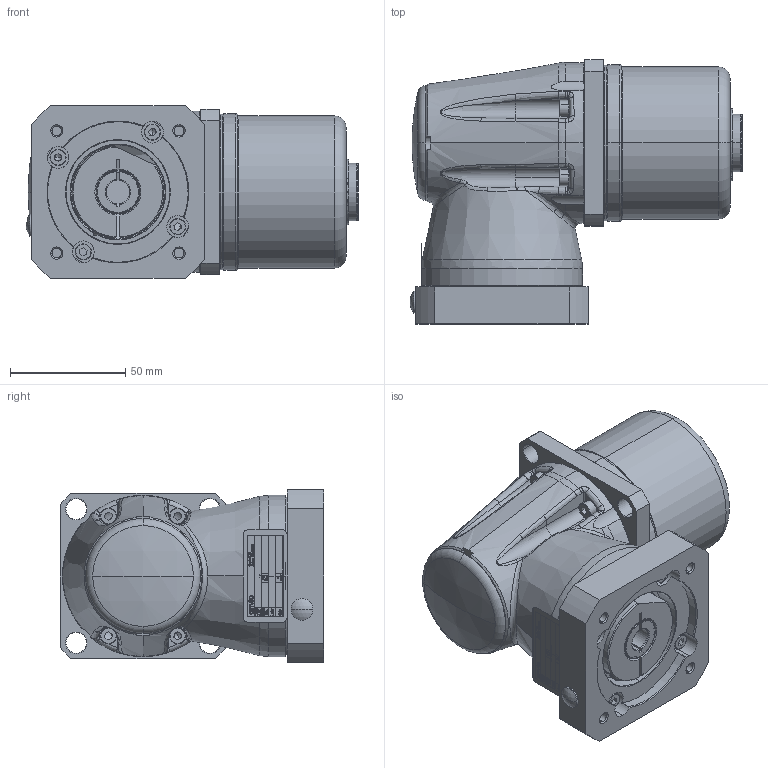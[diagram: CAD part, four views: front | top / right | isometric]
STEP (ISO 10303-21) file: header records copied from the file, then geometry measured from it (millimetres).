
FILE_DESCRIPTION (( 'STEP AP214' ), '1' );
FILE_NAME ('FL-010-0RR-FFF-MMM-S-LL-XXX-AXX-DDCC.STEP', '2019-10-30T15:43:56', ( '' ), ( '' ), 'SwSTEP 2.0', 'SolidWorks 2019', '' );
FILE_SCHEMA (( 'AUTOMOTIVE_DESIGN' ));
Length unit declared in the file: millimetre
Products named in the file (1): FL-010-0RR-FFF-MMM-S-LL-XXX-AXX-DDCC
Bounding box: 144.09 x 114.5 x 75 mm (x, y, z)
Surface area: 71700.2 mm2 (no closed solid volume)
Topology: 0 solids, 71 shells, 567 faces, 2695 edges, 2180 vertices
Faces by surface type: plane 186, cylinder 155, cone 96, bspline 65, torus 61, sphere 4
Entity records: 43324 total; most frequent: CARTESIAN_POINT 17380, ORIENTED_EDGE 3765, DIRECTION 3461, EDGE_CURVE 2689, VERTEX_POINT 2180, VECTOR 1197, LINE 1197, AXIS2_PLACEMENT_3D 1132
